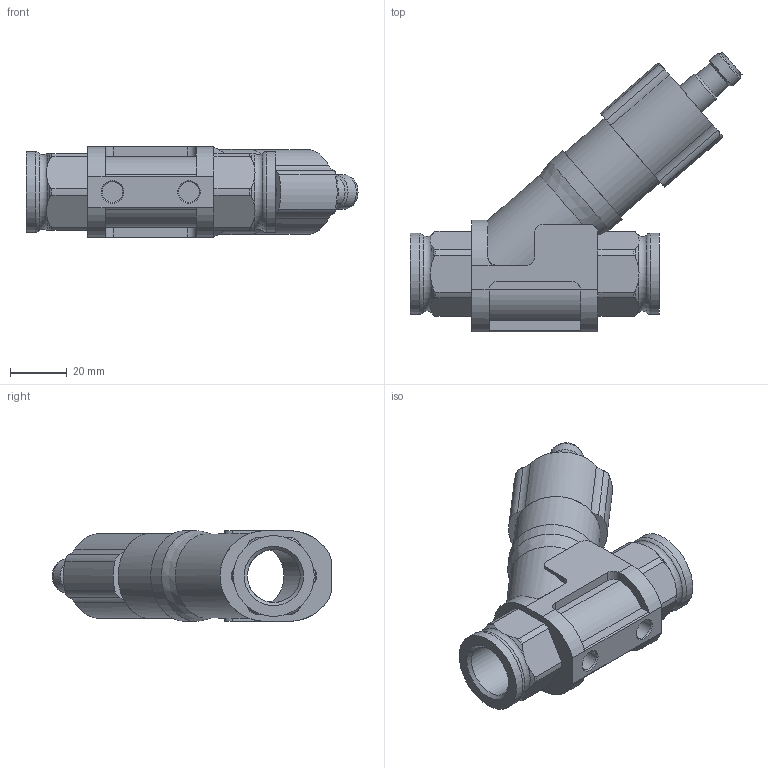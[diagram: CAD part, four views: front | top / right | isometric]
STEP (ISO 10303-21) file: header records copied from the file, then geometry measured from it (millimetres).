
FILE_DESCRIPTION( ( 'STEP AP203' ), '1' );
FILE_NAME( 'p:/temp/worker_68/temp/exporttempdir_1188_698_5GlfA/format_0/SBL422.stp', '2021-03-08T07:57:16', ( 'License CC BY-ND 4.0' ), ( 'CADENAS' ), ' ', 'PARTsolutions', ' ' );
FILE_SCHEMA( ( 'CONFIG_CONTROL_DESIGN' ) );
Length unit declared in the file: millimetre
Products named in the file (1): _SBL422
Bounding box: 117.12 x 98.73 x 32 mm (x, y, z)
Volume: 78328.4 mm3; surface area: 29228.5 mm2
Topology: 1 solids, 1 shells, 161 faces, 435 edges, 286 vertices
Faces by surface type: cylinder 66, plane 56, cone 20, torus 19
Full cylindrical faces by diameter (mm): 7.188 x2, 10 x1, 10.5 x1, 10.6 x1, 12 x2, 18 x1, 18.631 x2, 20 x1, 23.812 x1, 28.5 x2, 30 x1, 32 x1
Entity records: 5559 total; most frequent: CARTESIAN_POINT 1634, DIRECTION 809, ORIENTED_EDGE 798, EDGE_CURVE 399, AXIS2_PLACEMENT_3D 339, VERTEX_POINT 278, EDGE_LOOP 201, FACE_OUTER_BOUND 181
